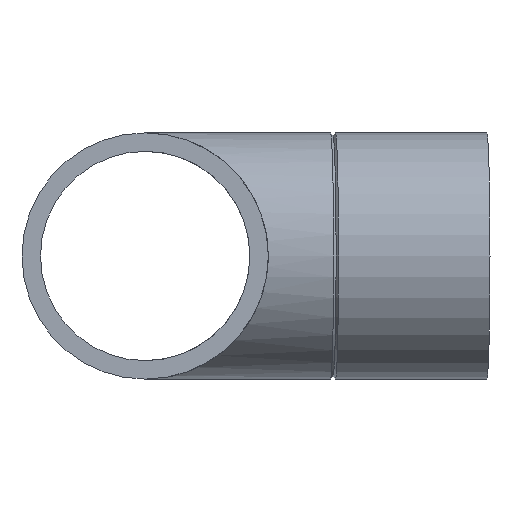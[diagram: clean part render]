
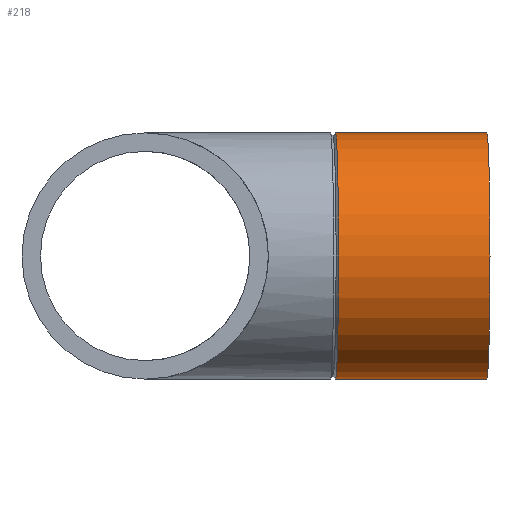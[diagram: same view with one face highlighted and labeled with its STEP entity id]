
A CAD part, front view. The second image highlights one B-rep face of the part: STEP entity #218.
In plain terms, the highlighted cylindrical face has radius 20 mm (diameter 40 mm), a full revolution.
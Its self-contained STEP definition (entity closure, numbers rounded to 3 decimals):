
#23=CYLINDRICAL_SURFACE($,#252,20.);
#37=FACE_BOUND($,#82,.T.);
#58=FACE_OUTER_BOUND($,#81,.T.);
#81=EDGE_LOOP($,(#171));
#82=EDGE_LOOP($,(#172));
#99=CIRCLE($,#238,20.);
#105=CIRCLE($,#253,20.);
#116=VERTEX_POINT($,#353);
#124=VERTEX_POINT($,#376);
#135=EDGE_CURVE($,#116,#116,#99,.T.);
#143=EDGE_CURVE($,#124,#124,#105,.T.);
#171=ORIENTED_EDGE($,*,*,#135,.T.);
#172=ORIENTED_EDGE($,*,*,#143,.T.);
#218=ADVANCED_FACE($,(#58,#37),#23,.T.);
#238=AXIS2_PLACEMENT_3D($,#354,#286,#287);
#252=AXIS2_PLACEMENT_3D($,#375,#314,#315);
#253=AXIS2_PLACEMENT_3D($,#377,#316,#317);
#286=DIRECTION('center_axis',(1.,0.026,0.));
#287=DIRECTION('ref_axis',(0.026,-1.,0.));
#314=DIRECTION('center_axis',(-1.,-0.026,0.));
#315=DIRECTION('ref_axis',(0.026,-1.,0.));
#316=DIRECTION('center_axis',(-1.,-0.026,0.));
#317=DIRECTION('ref_axis',(0.026,-1.,0.));
#353=CARTESIAN_POINT('',(31.413,56.316,0.));
#354=CARTESIAN_POINT('Origin',(30.889,76.309,0.));
#375=CARTESIAN_POINT('Origin',(55.481,76.953,0.));
#376=CARTESIAN_POINT('',(54.957,96.946,0.));
#377=CARTESIAN_POINT('Origin',(55.481,76.953,0.));
